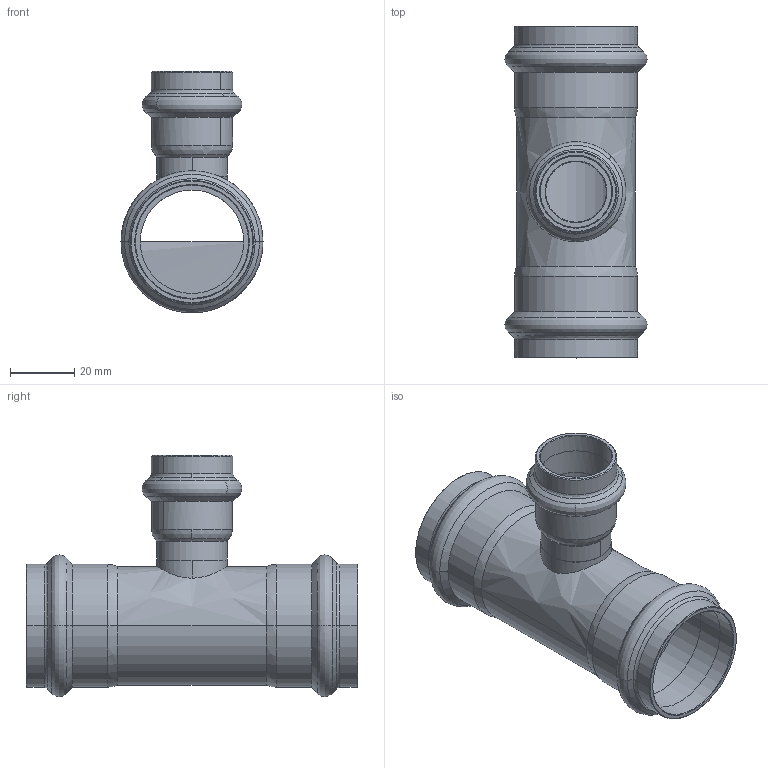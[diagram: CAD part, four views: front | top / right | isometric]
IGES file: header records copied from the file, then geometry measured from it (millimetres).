
Start section: Elysium IGES Interface
Global section: file name: C:\Users\Wallenburg\Desktop\3d modellen sudo\S-Pr VP\SP6130RV\6130RVW352235.igs; native system: CoCreate Modeling 17.00A  17-Jun-2010; preprocessor: CoCreate IGES_3D V2.2; author: Unknown; organization: Unknown; date: 20130117.140343; units: millimetre
Bounding box: 44.3 x 103.51 x 75.35 mm (x, y, z)
Volume: 26943.3 mm3; surface area: 30502.8 mm2
Topology: 1 solids, 1 shells, 128 faces, 295 edges, 169 vertices
Faces by surface type: bspline 128
